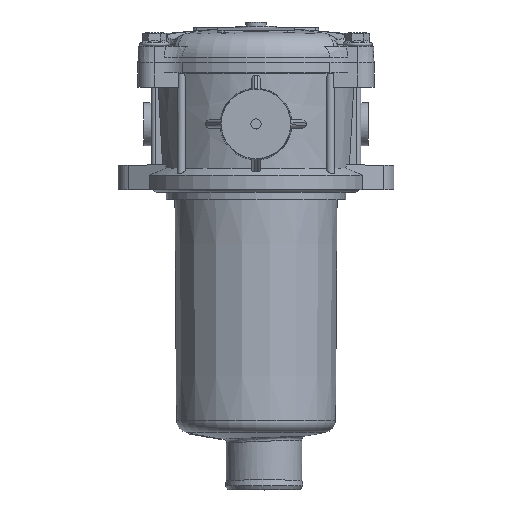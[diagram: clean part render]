
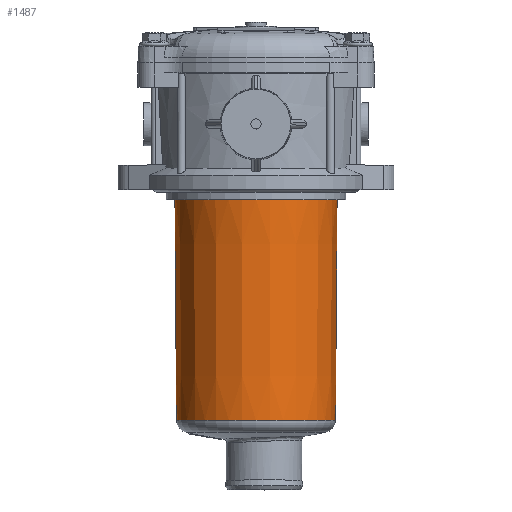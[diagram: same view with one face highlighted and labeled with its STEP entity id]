
A CAD part, top view. The second image highlights one B-rep face of the part: STEP entity #1487.
In plain terms, the highlighted conical face has half-angle 0.409 degrees and reference radius 38.932 mm.
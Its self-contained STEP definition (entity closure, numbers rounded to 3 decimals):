
#1456=CARTESIAN_POINT('',(38.9,-113.002,0.));
#1457=VERTEX_POINT('',#1456);
#1458=CARTESIAN_POINT('',(0.,-113.002,0.));
#1459=DIRECTION('',(0.0,-1.0,0.0));
#1460=DIRECTION('',(-1.0,0.0,0.0));
#1461=AXIS2_PLACEMENT_3D('',#1458,#1459,#1460);
#1462=CIRCLE('',#1461,38.9);
#1463=EDGE_CURVE('',#1457,#1457,#1462,.T.);
#1468=CARTESIAN_POINT('',(0.,-108.5,0.));
#1469=DIRECTION('',(0.,1.0,0.));
#1470=DIRECTION('',(1.0,0.0,0.0));
#1471=AXIS2_PLACEMENT_3D('',#1468,#1469,#1470);
#1472=CONICAL_SURFACE('',#1471,38.932,0.409);
#1473=CARTESIAN_POINT('',(39.671,-5.,0.));
#1474=VERTEX_POINT('',#1473);
#1475=CARTESIAN_POINT('',(0.,-5.0,0.));
#1476=DIRECTION('',(0.0,1.0,0.0));
#1477=DIRECTION('',(1.0,0.0,0.0));
#1478=AXIS2_PLACEMENT_3D('',#1475,#1476,#1477);
#1479=CIRCLE('',#1478,39.671);
#1480=EDGE_CURVE('',#1474,#1474,#1479,.T.);
#1481=ORIENTED_EDGE('',*,*,#1480,.F.);
#1482=EDGE_LOOP('',(#1481));
#1483=FACE_OUTER_BOUND('',#1482,.T.);
#1484=ORIENTED_EDGE('',*,*,#1463,.F.);
#1485=EDGE_LOOP('',(#1484));
#1486=FACE_BOUND('',#1485,.T.);
#1487=ADVANCED_FACE('',(#1483,#1486),#1472,.T.);
